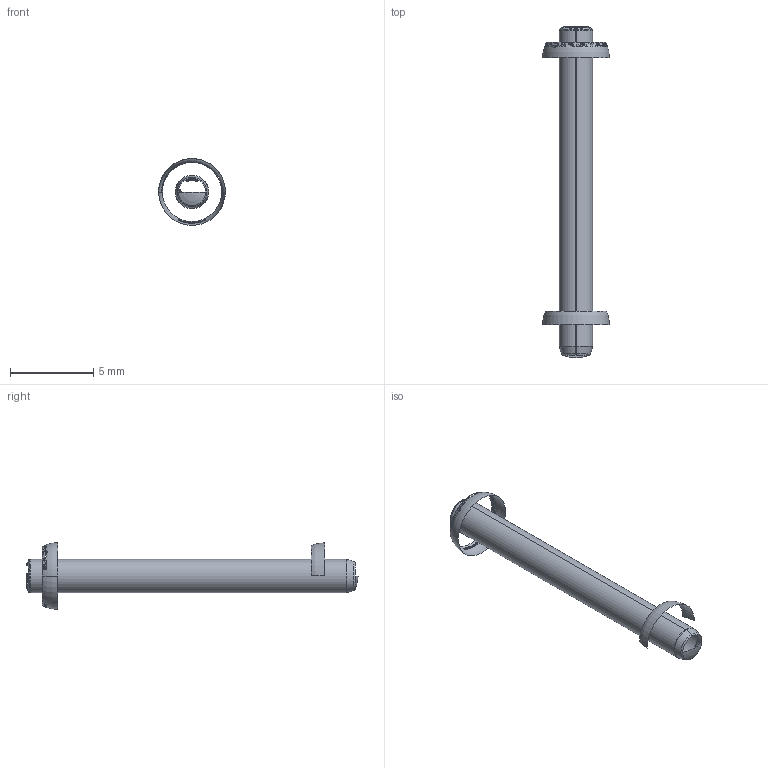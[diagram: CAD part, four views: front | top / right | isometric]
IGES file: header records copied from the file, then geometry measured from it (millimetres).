
Start section: SolidWorks IGES file using analytic representation for surfaces
Global section: file name: D:\Cleonir_arquivos\MT_15_07\Pinos Guia DIN 6325 ISO 8734 sem rosca\PG602020.igs; native system: SolidWorks 2013; preprocessor: SolidWorks 2013; author: Cleonir; date: 130718.161609; units: millimetre
Bounding box: 4 x 19.91 x 3.99 mm (x, y, z)
Surface area: 143.3 mm2 (no closed solid volume)
Topology: 0 solids, 0 shells, 290 faces, 2085 edges, 2084 vertices
Faces by surface type: bspline 263, revolution 27
